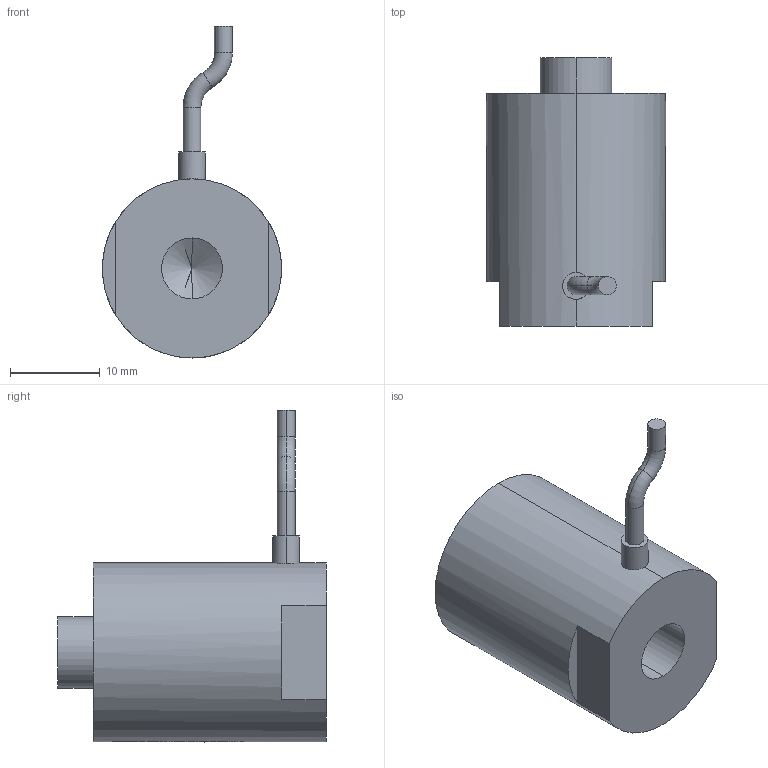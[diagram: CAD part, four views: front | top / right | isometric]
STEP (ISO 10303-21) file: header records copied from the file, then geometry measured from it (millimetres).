
FILE_DESCRIPTION (( 'STEP AP203' ), '1' );
FILE_NAME ('ﾆｽﾍｷﾊｽ7VS20.STEP', '2021-07-08T05:34:59', ( 'ﾎ｢ﾈ橆ﾃｻｧ' ), ( 'ﾎ｢ﾈ晥ｫﾋｾ' ), 'SwSTEP 2.0', 'SolidWorks 2016', '' );
FILE_SCHEMA (( 'CONFIG_CONTROL_DESIGN' ));
Length unit declared in the file: millimetre
Products named in the file (1): ƽͷʽ7VS20
Bounding box: 20 x 30 x 37.06 mm (x, y, z)
Volume: 7916.4 mm3; surface area: 2721.7 mm2
Topology: 1 solids, 1 shells, 908 faces, 2461 edges, 1635 vertices
Faces by surface type: bspline 501, plane 300, cylinder 101, torus 4, cone 2
Entity records: 42833 total; most frequent: CARTESIAN_POINT 24429, ORIENTED_EDGE 4910, EDGE_CURVE 2455, DIRECTION 1867, B_SPLINE_CURVE_WITH_KNOTS 1660, VERTEX_POINT 1633, EDGE_LOOP 992, ADVANCED_FACE 908
